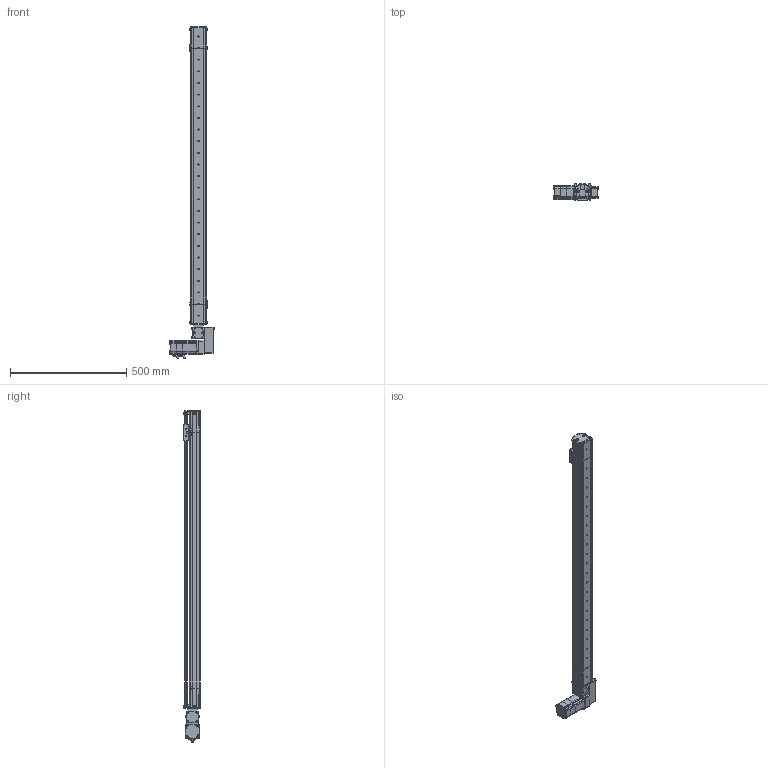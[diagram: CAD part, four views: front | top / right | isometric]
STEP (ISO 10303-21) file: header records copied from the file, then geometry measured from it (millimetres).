
FILE_DESCRIPTION (( 'STEP AP214' ), '1' );
FILE_NAME ('S07 TBN LH S1100.STEP', '2010-06-29T11:53:42', ( 'Conseil Régional Haute-Normandie' ), ( 'Conseil Régional Haute-Normandie' ), 'SwSTEP 2.0', 'SolidWorks 2010', '' );
FILE_SCHEMA (( 'AUTOMOTIVE_DESIGN' ));
Length unit declared in the file: millimetre
Products named in the file (41): guide; renvoi LH_Default; corp moteur LH-RH(146)_Default; cache t皻e_Default; Poulie head_Default; cache t皻e axe_Default; couvercle moteur S07 TB; S07 LH(146)_Default; Plaque racord_Default; vis M5 L5_Default; Couroie t皻e_Default; Pièce5^S07 LH(146); plaque de bout LH_Default; GMB 60 90 310_Default; Vis M5 L16-2_Default; P2 90A_Default; P1_Default; Poulie_Default; P3 90A_Default; CHariot_Default; couroie tail_Default; vis M5 L12_Default; Conecteur 60BLDC_Default; Axe 60BLDC_Default; P4_Default; T皻e de poulie_Default; S07 TB tail (78)_Default; Cvis M5 L30_Default; VisM3_Default; Conecteur2 60BLDC_Default; plaque de bout_Default; corp tail TB_Default; Chariot; couvercle tail TB; vis M5 L16_Default; couvercle S07 course 1100 ; Couroie  course 1100_Default; Corp S07 course 1100_Default; Course C L1100_Default; S07 TBN LH S1100
Assembly tree (80 placements, depth 4):
  Pièce5^S07 LH(146)
  S07 TBN LH S1100
    Course C L1100_Default
      Couroie  course 1100_Default
      Corp S07 course 1100_Default
      couvercle S07 course 1100 
    S07 LH(146)_Default
      vis M5 L5_Default  x6
      cache t皻e_Default  x2
      corp moteur LH-RH(146)_Default
      Vis M5 L16-2_Default  x8
      vis M5 L12_Default  x6
      Poulie head_Default
      GMB 60 90 310_Default
        P2 90A_Default
        Axe 60BLDC_Default
        VisM3_Default  x12
        P1_Default
        P4_Default
        P3 90A_Default
        Conecteur 60BLDC_Default
        Conecteur2 60BLDC_Default
      plaque de bout LH_Default
      Cvis M5 L30_Default  x2
      couvercle moteur S07 TB
      Couroie t皻e_Default
      cache t皻e axe_Default
      renvoi LH_Default
      Plaque racord_Default
    CHariot_Default
      guide
      vis M5 L16_Default  x2
      Chariot
    S07 TB tail (78)_Default
      couvercle tail TB
      vis M5 L12_Default  x10
      corp tail TB_Default
      Poulie_Default
        Poulie_Default
        T皻e de poulie_Default
      couroie tail_Default
      plaque de bout_Default
Bounding box: 190.2 x 72.2 x 1427 mm (x, y, z)
Volume: 2803597.4 mm3; surface area: 1202300.2 mm2
Topology: 102 solids, 102 shells, 3944 faces, 9816 edges, 6341 vertices
Faces by surface type: plane 2238, cylinder 776, bspline 677, cone 125, torus 124, sphere 4
Entity records: 167809 total; most frequent: CARTESIAN_POINT 75305, ORIENTED_EDGE 15544, DIRECTION 12409, EDGE_CURVE 7772, VERTEX_POINT 5129, LINE 5063, VECTOR 5063, AXIS2_PLACEMENT_3D 3673
